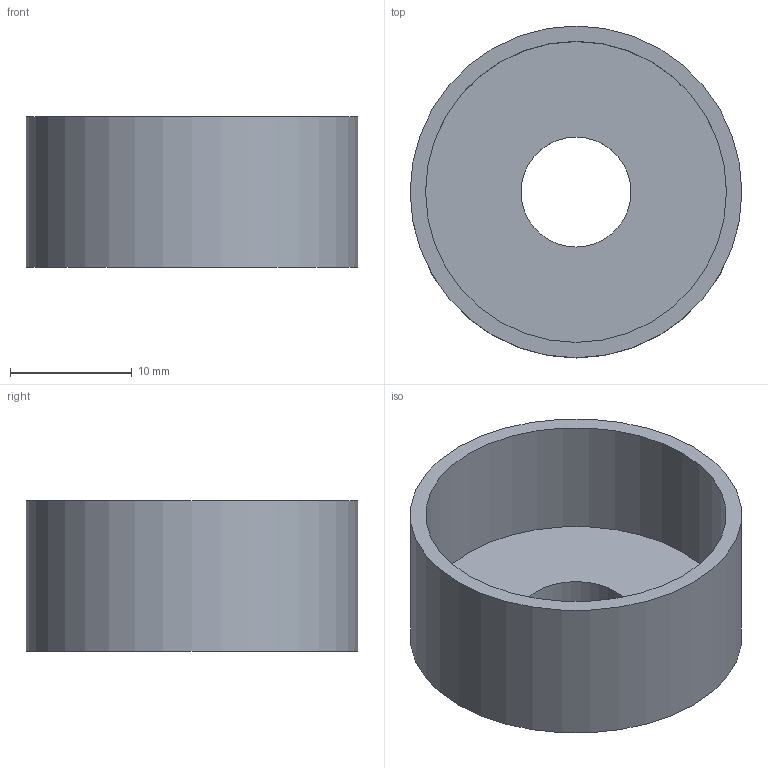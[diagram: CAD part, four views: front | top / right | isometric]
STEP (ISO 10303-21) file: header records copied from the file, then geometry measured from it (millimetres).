
FILE_DESCRIPTION(('FreeCAD Model'),'2;1');
FILE_NAME('Open CASCADE Shape Model','2026-10-09T19:40:36',(''),(''), 'Open CASCADE STEP processor 7.8','FreeCAD','Unknown');
FILE_SCHEMA(('AUTOMOTIVE_DESIGN { 1 0 10303 214 1 1 1 1 }'));
Length unit declared in the file: millimetre
Products named in the file (1): Body
Bounding box: 27.28 x 27.28 x 12.36 mm (x, y, z)
Volume: 2278.5 mm3; surface area: 2941.5 mm2
Topology: 1 solids, 1 shells, 6 faces, 9 edges, 6 vertices
Faces by surface type: cylinder 3, plane 3
Full cylindrical faces by diameter (mm): 9.042 x1, 24.749 x1, 27.278 x1
Entity records: 165 total; most frequent: DIRECTION 29, CARTESIAN_POINT 22, ORIENTED_EDGE 18, AXIS2_PLACEMENT_3D 13, FACE_BOUND 9, EDGE_LOOP 9, EDGE_CURVE 9, ADVANCED_FACE 6
